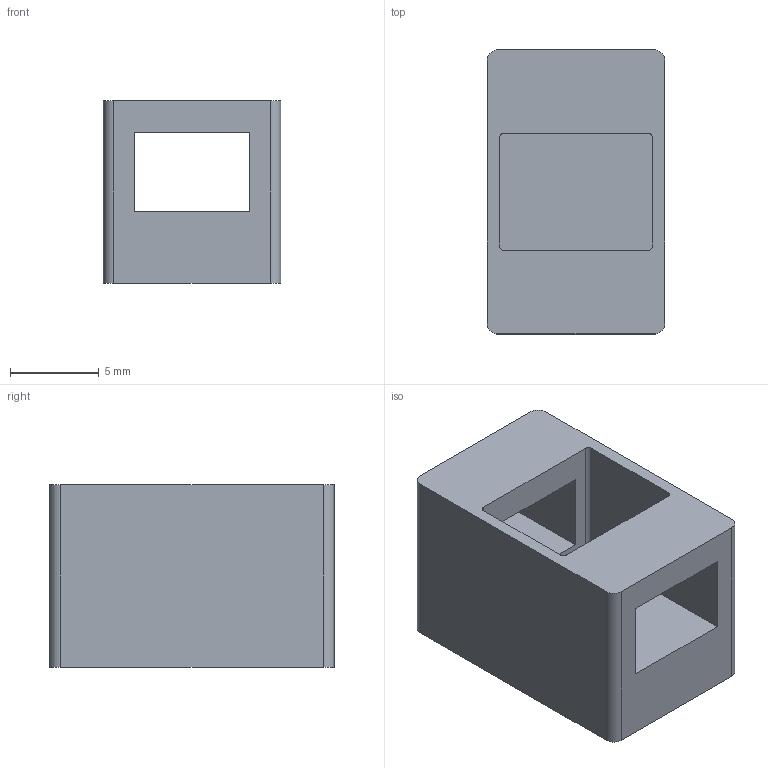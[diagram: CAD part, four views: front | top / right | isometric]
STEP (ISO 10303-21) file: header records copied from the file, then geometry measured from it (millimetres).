
FILE_DESCRIPTION(('Open CASCADE Model'),'2;1');
FILE_NAME('Open CASCADE Shape Model','2026-10-23T20:21:42',('Author'),( 'Open CASCADE'),'Open CASCADE STEP processor 7.8','Open CASCADE 7.8' ,'Unknown');
FILE_SCHEMA(('AUTOMOTIVE_DESIGN { 1 0 10303 214 1 1 1 1 }'));
Length unit declared in the file: millimetre
Products named in the file (1): Open CASCADE STEP translator 7.8 4
Bounding box: 10 x 16 x 10.25 mm (x, y, z)
Volume: 894.1 mm3; surface area: 1178.9 mm2
Topology: 1 solids, 1 shells, 27 faces, 72 edges, 48 vertices
Faces by surface type: plane 19, cylinder 8
Entity records: 1774 total; most frequent: CARTESIAN_POINT 368, DIRECTION 242, ORIENTED_EDGE 144, LINE 144, VECTOR 144, PCURVE 144, DEFINITIONAL_REPRESENTATION 144, EDGE_CURVE 72
